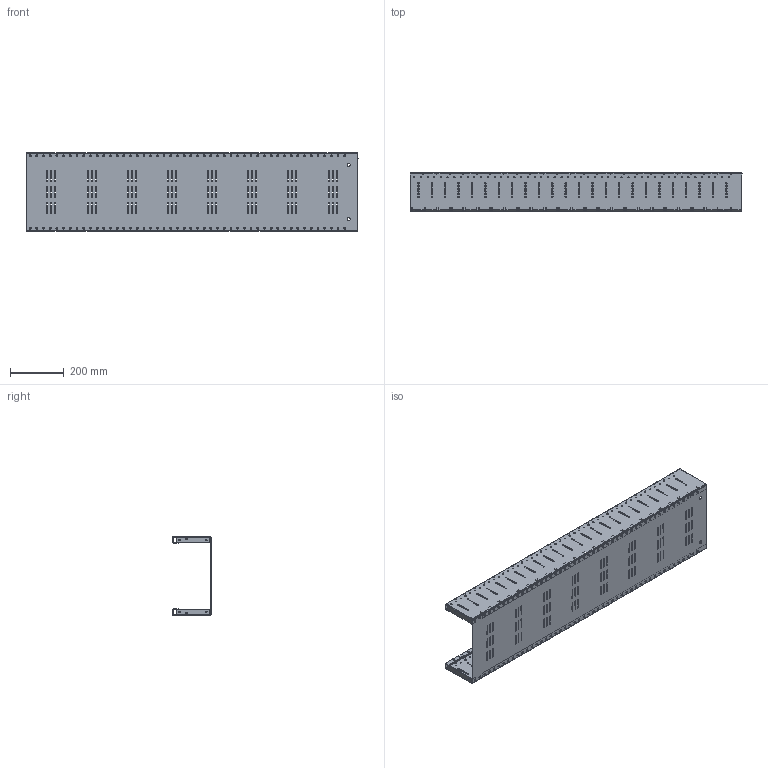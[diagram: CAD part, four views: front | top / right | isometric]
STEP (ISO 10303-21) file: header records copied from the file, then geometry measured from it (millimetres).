
FILE_DESCRIPTION(('CAx-IF Rec.Pracs.---Model Styling and Organization---1.2---2011-12-15','CAx-IF Rec.Pracs.---Geometric and Assembly Validation Properties---4.1---2014-06-16','CAx-IF Rec.Pracs.---PMI Polyline Presentation---2.0---2013-05-24'),'2;1');
FILE_NAME('R5M2RGBS24M.stp','2021-05-05T12:01:54+03:00',(''),(''),'STEP Interface 4.4 by CT CoreTechnologie','3D_Evolution4.4 by CT CoreTechnologie','');
FILE_SCHEMA(('AUTOMOTIVE_DESIGN { 1 0 10303 214 1 1 1 1 }'));
Length unit declared in the file: millimetre
Products named in the file (4): R5M2RGBS24M; RB.1394.00.00.0; RB.1392.00.00.0_-00; RB.1392.00.00.0_-01
Assembly tree (3 placements, depth 2):
  R5M2RGBS24M
    RB.1394.00.00.0
    RB.1392.00.00.0_-00
    RB.1392.00.00.0_-01
Bounding box: 1240 x 143 x 295 mm (x, y, z)
Surface area: 1706709.4 mm2 (no closed solid volume)
Topology: 0 solids, 3 shells, 3011 faces, 9885 edges, 6528 vertices
Faces by surface type: cylinder 1744, plane 1267
Entity records: 113014 total; most frequent: ORIENTED_EDGE 19770, CARTESIAN_POINT 19428, DIRECTION 19403, EDGE_CURVE 9885, VERTEX_POINT 6528, AXIS2_PLACEMENT_3D 6503, VECTOR 6397, LINE 6397
